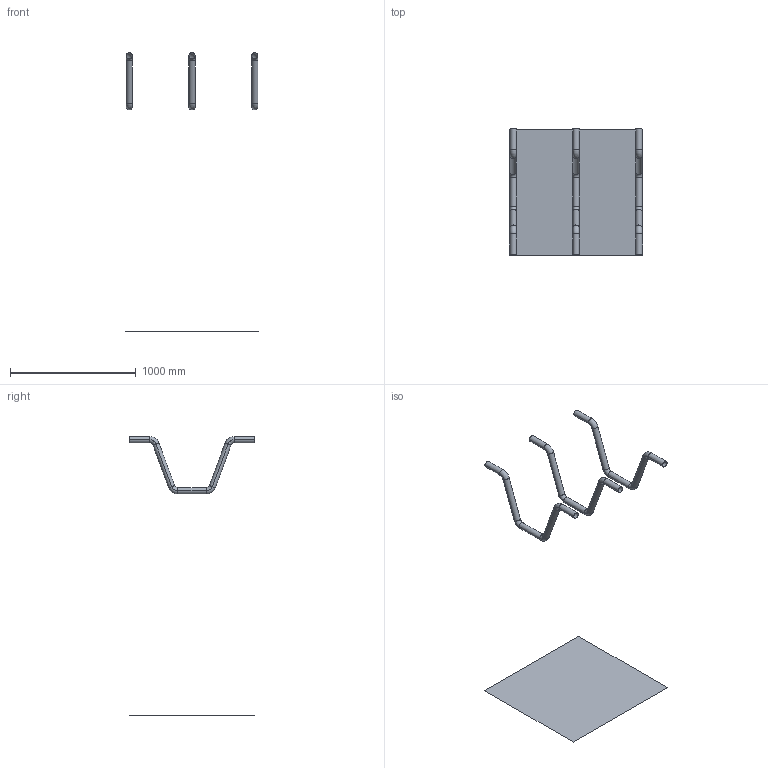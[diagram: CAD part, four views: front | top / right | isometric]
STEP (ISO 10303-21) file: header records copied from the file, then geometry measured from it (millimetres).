
FILE_DESCRIPTION(('CATIA V5 STEP Exchange'),'2;1');
FILE_NAME('C:\_Andres\UNIVERSIDAD\IQS\ASIGNATURAS\DAO\EXF\EXF-16172c\2inicio\Campmany_Monforte_Ej08_v6.stp','2017-03-05T21:54:49+00:00',('none'),('none'),'CATIA Version 5-6 Release 2014 SP1 HF18','CATIA V5 STEP AP203','none');
FILE_SCHEMA(('CONFIG_CONTROL_DESIGN'));
Length unit declared in the file: millimetre
Products named in the file (1): Campmany_Monforte_Ej08_v6
Bounding box: 1060 x 1000 x 2219 mm (x, y, z)
Surface area: 1781175.3 mm2 (no closed solid volume)
Topology: 0 solids, 4 shells, 55 faces, 118 edges, 64 vertices
Faces by surface type: cylinder 30, torus 24, plane 1
Entity records: 1283 total; most frequent: ORIENTED_EDGE 220, CARTESIAN_POINT 208, DIRECTION 168, EDGE_CURVE 118, AXIS2_PLACEMENT_3D 110, CIRCLE 84, VERTEX_POINT 64, ADVANCED_FACE 55
